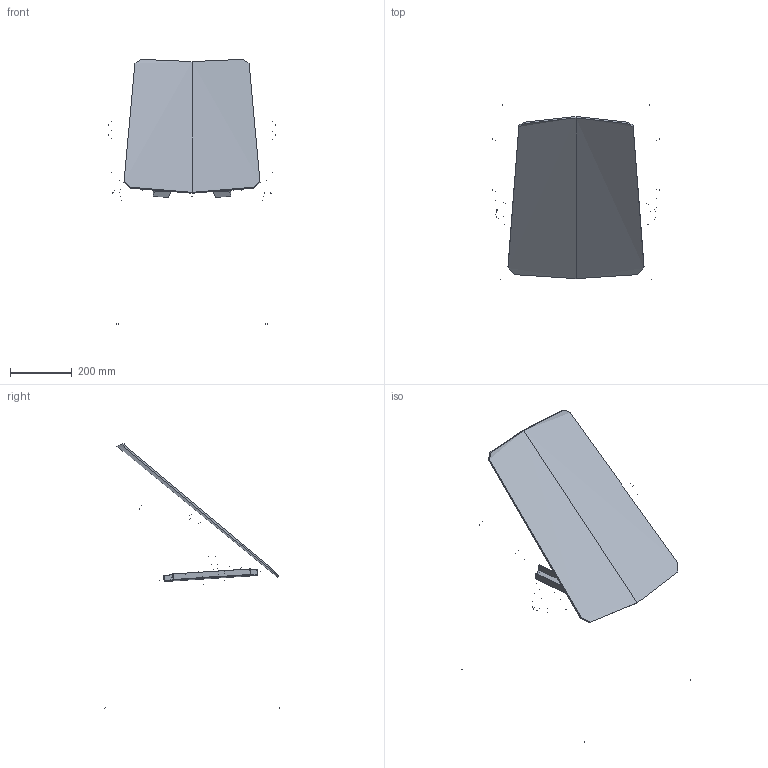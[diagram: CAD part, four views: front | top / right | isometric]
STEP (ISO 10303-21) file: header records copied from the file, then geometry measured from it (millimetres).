
FILE_DESCRIPTION(/* description */ (''),/* implementation_level */ '2;1');
FILE_NAME(/* name */ 'Evo 010 -BR,SR',/* time_stamp */ '2023-02-03T18:58:56+01:00',/* author */ (''),/* organization */ (''),/* preprocessor_version */ 'ST-DEVELOPER v16.5',/* originating_system */ 'Rhino 7.26',/* authorisation */ '');
FILE_SCHEMA (('CONFIG_CONTROL_DESIGN'));
Length unit declared in the file: millimetre
Products named in the file (1): Document
Bounding box: 540 x 569.47 x 862.02 mm (x, y, z)
Volume: 249489.7 mm3; surface area: 1156804.2 mm2
Topology: 4 solids, 22 shells, 102 faces, 219 edges, 135 vertices
Faces by surface type: bspline 46, cylinder 28, plane 28
Full cylindrical faces by diameter (mm): 6 x6, 18 x8, 22 x12, 24 x2
Entity records: 6715 total; most frequent: CARTESIAN_POINT 5234, ORIENTED_EDGE 398, EDGE_CURVE 215, VERTEX_POINT 131, ADVANCED_FACE 102, FACE_OUTER_BOUND 102, EDGE_LOOP 102, B_SPLINE_CURVE_WITH_KNOTS 94
